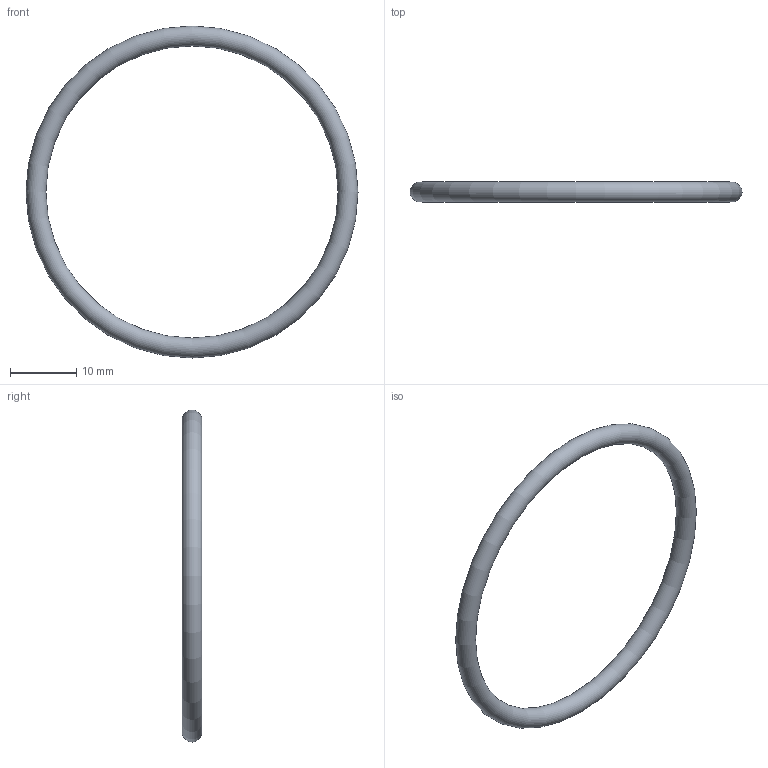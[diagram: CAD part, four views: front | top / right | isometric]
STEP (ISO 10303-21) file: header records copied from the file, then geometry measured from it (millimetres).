
FILE_DESCRIPTION( ( 'STEP AP203' ), '1' );
FILE_NAME( 'C:/Temp/Ganter_Step_05_03_2020/data/3_5/or638/O-Ring OR638-44.00-3.00-70.stp', '2020-03-12T13:44:31', ( 'License CC BY-ND 4.0' ), ( 'CADENAS' ), ' ', 'PARTsolutions', ' ' );
FILE_SCHEMA( ( 'CONFIG_CONTROL_DESIGN' ) );
Length unit declared in the file: millimetre
Products named in the file (1): _O-Ring OR638-44.00-3.00-70
Bounding box: 50 x 3 x 50 mm (x, y, z)
Volume: 1043.7 mm3; surface area: 1391.6 mm2
Topology: 1 solids, 1 shells, 1 faces, 2 edges, 1 vertices
Faces by surface type: torus 1
Entity records: 62 total; most frequent: CC_DESIGN_PERSON_AND_ORGANIZATION_ASSIGNMENT 5, PERSON_AND_ORGANIZATION_ROLE 4, DIRECTION 4, CARTESIAN_POINT 3, DATE_TIME_ROLE 2, CC_DESIGN_DATE_AND_TIME_ASSIGNMENT 2, AXIS2_PLACEMENT_3D 2, DIMENSIONAL_EXPONENTS 2
